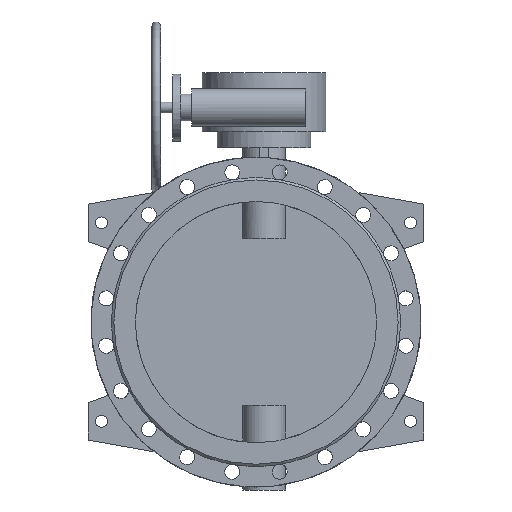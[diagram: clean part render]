
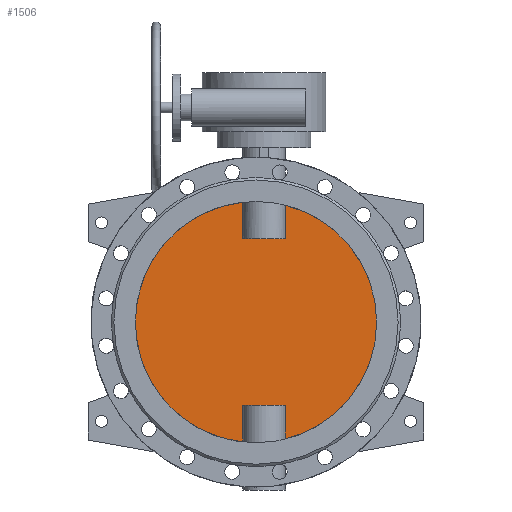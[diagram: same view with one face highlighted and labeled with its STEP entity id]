
A CAD part, front view. The second image highlights one B-rep face of the part: STEP entity #1506.
In plain terms, the highlighted planar face has unit normal (0, -1, 0).
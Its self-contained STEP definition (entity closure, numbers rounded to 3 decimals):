
#1506=ADVANCED_FACE('',(#3168),#3170,.F.);
#3168=FACE_BOUND('',#3169,.T.);
#3169=EDGE_LOOP('',(#4298,#4299,#4300,#4301,#4302,#4303,#4304,#4305));
#3170=PLANE('',#3171);
#3171=AXIS2_PLACEMENT_3D('',#3172,#3173,#3174);
#3172=CARTESIAN_POINT('',(0.,-5.,0.));
#3173=DIRECTION('',(0.,1.,0.));
#3174=DIRECTION('',(1.,0.,0.));
#4298=ORIENTED_EDGE('',*,*,#4874,.T.);
#4299=ORIENTED_EDGE('',*,*,#4983,.T.);
#4300=ORIENTED_EDGE('',*,*,#4984,.T.);
#4301=ORIENTED_EDGE('',*,*,#4985,.T.);
#4302=ORIENTED_EDGE('',*,*,#4876,.T.);
#4303=ORIENTED_EDGE('',*,*,#4986,.T.);
#4304=ORIENTED_EDGE('',*,*,#4987,.T.);
#4305=ORIENTED_EDGE('',*,*,#4988,.T.);
#4874=EDGE_CURVE('',#5722,#5723,#5724,.F.);
#4876=EDGE_CURVE('',#5727,#5725,#5728,.F.);
#4983=EDGE_CURVE('',#5723,#5921,#5922,.T.);
#4984=EDGE_CURVE('',#5921,#5923,#5924,.F.);
#4985=EDGE_CURVE('',#5923,#5727,#5925,.F.);
#4986=EDGE_CURVE('',#5725,#5926,#5927,.F.);
#4987=EDGE_CURVE('',#5926,#5928,#5929,.F.);
#4988=EDGE_CURVE('',#5928,#5722,#5930,.T.);
#5722=VERTEX_POINT('',#11837);
#5723=VERTEX_POINT('',#11838);
#5724=CIRCLE('',#11839,225.);
#5725=VERTEX_POINT('',#11843);
#5727=VERTEX_POINT('',#11929);
#5728=CIRCLE('',#11930,225.);
#5921=VERTEX_POINT('',#13326);
#5922=LINE('',#13327,#13328);
#5923=VERTEX_POINT('',#13330);
#5924=LINE('',#13331,#13332);
#5925=LINE('',#13334,#13335);
#5926=VERTEX_POINT('',#13337);
#5927=LINE('',#13338,#13339);
#5928=VERTEX_POINT('',#13341);
#5929=LINE('',#13342,#13343);
#5930=LINE('',#13345,#13346);
#11837=CARTESIAN_POINT('',(54.686,-5.,-218.253));
#11838=CARTESIAN_POINT('',(54.686,-5.,218.253));
#11839=AXIS2_PLACEMENT_3D('',#11840,#11841,#11842);
#11840=CARTESIAN_POINT('',(0.,-5.,0.));
#11841=DIRECTION('',(0.,1.,0.));
#11842=DIRECTION('',(0.243,0.,0.97));
#11843=CARTESIAN_POINT('',(-24.686,-5.,-223.642));
#11929=CARTESIAN_POINT('',(-24.686,-5.,223.642));
#11930=AXIS2_PLACEMENT_3D('',#11931,#11932,#11933);
#11931=CARTESIAN_POINT('',(0.,-5.,0.));
#11932=DIRECTION('',(0.,1.,0.));
#11933=DIRECTION('',(-0.11,0.,-0.994));
#13326=CARTESIAN_POINT('',(54.686,-5.,155.));
#13327=CARTESIAN_POINT('',(54.686,-5.,218.253));
#13328=VECTOR('',#13329,1.);
#13329=DIRECTION('',(0.,0.,-1.));
#13330=CARTESIAN_POINT('',(-24.686,-5.,155.));
#13331=CARTESIAN_POINT('',(-24.686,-5.,155.));
#13332=VECTOR('',#13333,1.);
#13333=DIRECTION('',(1.,0.,0.));
#13334=CARTESIAN_POINT('',(-24.686,-5.,223.642));
#13335=VECTOR('',#13336,1.);
#13336=DIRECTION('',(0.,0.,-1.));
#13337=CARTESIAN_POINT('',(-24.686,-5.,-155.));
#13338=CARTESIAN_POINT('',(-24.686,-5.,-155.));
#13339=VECTOR('',#13340,1.);
#13340=DIRECTION('',(0.,0.,-1.));
#13341=CARTESIAN_POINT('',(54.686,-5.,-155.));
#13342=CARTESIAN_POINT('',(54.686,-5.,-155.));
#13343=VECTOR('',#13344,1.);
#13344=DIRECTION('',(-1.,0.,0.));
#13345=CARTESIAN_POINT('',(54.686,-5.,-155.));
#13346=VECTOR('',#13347,1.);
#13347=DIRECTION('',(0.,0.,-1.));
